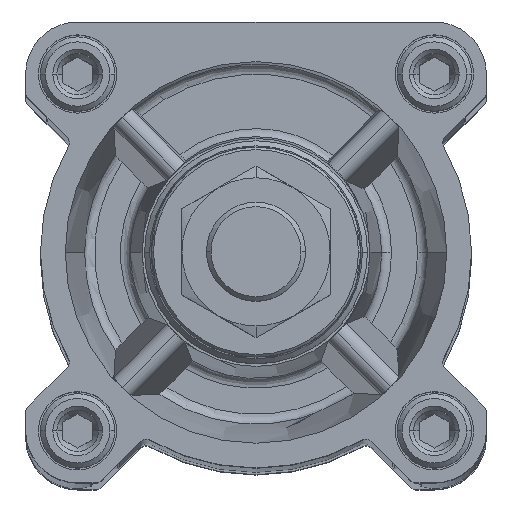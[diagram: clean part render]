
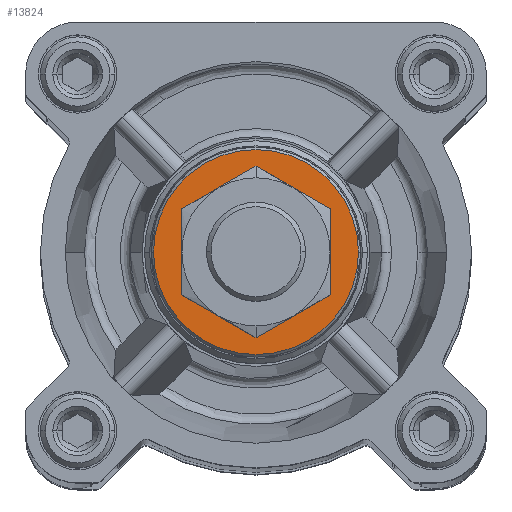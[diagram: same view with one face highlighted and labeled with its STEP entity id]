
A CAD part, top view. The second image highlights one B-rep face of the part: STEP entity #13824.
In plain terms, the highlighted planar face has unit normal (0, 0, 1).
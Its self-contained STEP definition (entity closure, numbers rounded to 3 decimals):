
#195 = AXIS2_PLACEMENT_3D ( 'NONE', #14180, #1229, #6995 ) ;
#1229 = DIRECTION ( 'NONE',  ( 0., 0., -1. ) ) ;
#1258 = ORIENTED_EDGE ( 'NONE', *, *, #3620, .F. ) ;
#1434 = VERTEX_POINT ( 'NONE', #17076 ) ;
#1843 = DIRECTION ( 'NONE',  ( 0., 0., -1. ) ) ;
#2085 = DIRECTION ( 'NONE',  ( 0., 0., -1. ) ) ;
#2881 = DIRECTION ( 'NONE',  ( -1., 0., 0. ) ) ;
#3012 = PLANE ( 'NONE',  #195 ) ;
#3129 = DIRECTION ( 'NONE',  ( -1., 0., 0. ) ) ;
#3620 = EDGE_CURVE ( 'NONE', #17402, #15871, #6853, .T. ) ;
#4539 = CARTESIAN_POINT ( 'NONE',  ( -20.686, 0., 34.2 ) ) ;
#4575 = CARTESIAN_POINT ( 'NONE',  ( 12.5, 0., 34.2 ) ) ;
#5284 = CARTESIAN_POINT ( 'NONE',  ( 0., 0., 34.2 ) ) ;
#6304 = DIRECTION ( 'NONE',  ( -1., 0., 0. ) ) ;
#6853 = CIRCLE ( 'NONE', #11674, 20.686 ) ;
#6995 = DIRECTION ( 'NONE',  ( 0., -1., 0. ) ) ;
#8384 = EDGE_CURVE ( 'NONE', #15871, #17402, #12019, .T. ) ;
#8815 = CARTESIAN_POINT ( 'NONE',  ( 0., 0., 34.2 ) ) ;
#10039 = EDGE_CURVE ( 'NONE', #1434, #11865, #11566, .T. ) ;
#11365 = EDGE_LOOP ( 'NONE', ( #1258, #14665 ) ) ;
#11566 = CIRCLE ( 'NONE', #13083, 12.5 ) ;
#11652 = ORIENTED_EDGE ( 'NONE', *, *, #12011, .T. ) ;
#11674 = AXIS2_PLACEMENT_3D ( 'NONE', #8815, #16075, #3129 ) ;
#11865 = VERTEX_POINT ( 'NONE', #4575 ) ;
#12011 = EDGE_CURVE ( 'NONE', #11865, #1434, #15172, .T. ) ;
#12019 = CIRCLE ( 'NONE', #16260, 20.686 ) ;
#13036 = FACE_OUTER_BOUND ( 'NONE', #11365, .T. ) ;
#13083 = AXIS2_PLACEMENT_3D ( 'NONE', #5284, #2085, #6304 ) ;
#13459 = EDGE_LOOP ( 'NONE', ( #16587, #11652 ) ) ;
#13542 = DIRECTION ( 'NONE',  ( 0., 0., -1. ) ) ;
#13664 = AXIS2_PLACEMENT_3D ( 'NONE', #14793, #1843, #2881 ) ;
#13824 = ADVANCED_FACE ( 'NONE', ( #13036, #15965 ), #3012, .F. ) ;
#14180 = CARTESIAN_POINT ( 'NONE',  ( 0., 0., 34.2 ) ) ;
#14511 = CARTESIAN_POINT ( 'NONE',  ( 20.686, 0., 34.2 ) ) ;
#14665 = ORIENTED_EDGE ( 'NONE', *, *, #8384, .F. ) ;
#14793 = CARTESIAN_POINT ( 'NONE',  ( 0., 0., 34.2 ) ) ;
#15172 = CIRCLE ( 'NONE', #13664, 12.5 ) ;
#15871 = VERTEX_POINT ( 'NONE', #14511 ) ;
#15965 = FACE_BOUND ( 'NONE', #13459, .T. ) ;
#16075 = DIRECTION ( 'NONE',  ( 0., 0., -1. ) ) ;
#16088 = CARTESIAN_POINT ( 'NONE',  ( 0., 0., 34.2 ) ) ;
#16260 = AXIS2_PLACEMENT_3D ( 'NONE', #16088, #13542, #17879 ) ;
#16587 = ORIENTED_EDGE ( 'NONE', *, *, #10039, .T. ) ;
#17076 = CARTESIAN_POINT ( 'NONE',  ( -12.5, 0., 34.2 ) ) ;
#17402 = VERTEX_POINT ( 'NONE', #4539 ) ;
#17879 = DIRECTION ( 'NONE',  ( -1., 0., 0. ) ) ;
